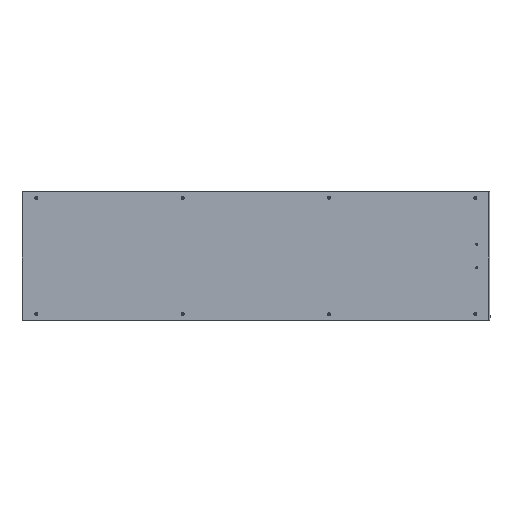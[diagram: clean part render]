
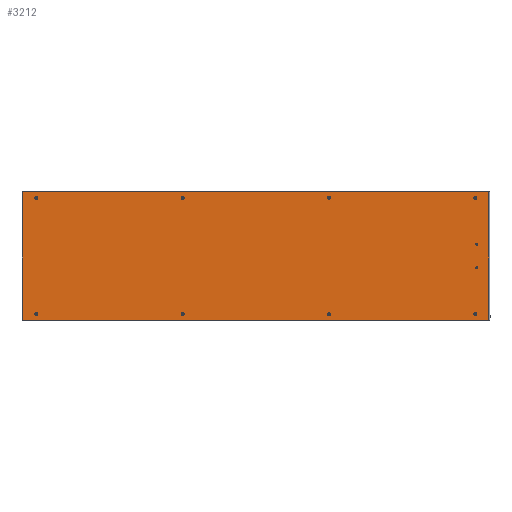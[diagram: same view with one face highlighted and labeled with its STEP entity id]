
A CAD part, top view. The second image highlights one B-rep face of the part: STEP entity #3212.
In plain terms, the highlighted planar face has unit normal (0, 0, 1).
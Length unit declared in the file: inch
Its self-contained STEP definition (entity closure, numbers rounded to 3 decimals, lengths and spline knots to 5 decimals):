
#16=CARTESIAN_POINT('',(36.865,9.75,0.36375));
#17=DIRECTION('',(0.,0.,1.));
#18=DIRECTION('',(1.,0.,0.));
#19=AXIS2_PLACEMENT_3D('',#16,#17,#18);
#25=CARTESIAN_POINT('',(36.865,9.75,0.36375));
#26=DIRECTION('',(0.,0.,1.));
#27=DIRECTION('',(-1.,0.,0.));
#28=AXIS2_PLACEMENT_3D('',#25,#26,#27);
#33=CARTESIAN_POINT('',(12.28833,9.75,0.36375));
#34=DIRECTION('',(0.,0.,1.));
#35=DIRECTION('',(1.,0.,0.));
#36=AXIS2_PLACEMENT_3D('',#33,#34,#35);
#41=CARTESIAN_POINT('',(12.28833,9.75,0.36375));
#42=DIRECTION('',(0.,0.,1.));
#43=DIRECTION('',(-1.,0.,0.));
#44=AXIS2_PLACEMENT_3D('',#41,#42,#43);
#49=CARTESIAN_POINT('',(-12.28833,9.75,0.36375));
#50=DIRECTION('',(0.,0.,1.));
#51=DIRECTION('',(1.,0.,0.));
#52=AXIS2_PLACEMENT_3D('',#49,#50,#51);
#57=CARTESIAN_POINT('',(-12.28833,9.75,0.36375));
#58=DIRECTION('',(0.,0.,1.));
#59=DIRECTION('',(-1.,0.,0.));
#60=AXIS2_PLACEMENT_3D('',#57,#58,#59);
#65=CARTESIAN_POINT('',(-36.865,9.75,0.36375));
#66=DIRECTION('',(0.,0.,1.));
#67=DIRECTION('',(1.,0.,0.));
#68=AXIS2_PLACEMENT_3D('',#65,#66,#67);
#73=CARTESIAN_POINT('',(-36.865,9.75,0.36375));
#74=DIRECTION('',(0.,0.,1.));
#75=DIRECTION('',(-1.,0.,0.));
#76=AXIS2_PLACEMENT_3D('',#73,#74,#75);
#81=CARTESIAN_POINT('',(-36.865,-9.75,0.36375));
#82=DIRECTION('',(0.,0.,1.));
#83=DIRECTION('',(1.,0.,0.));
#84=AXIS2_PLACEMENT_3D('',#81,#82,#83);
#89=CARTESIAN_POINT('',(-36.865,-9.75,0.36375));
#90=DIRECTION('',(0.,0.,1.));
#91=DIRECTION('',(-1.,0.,0.));
#92=AXIS2_PLACEMENT_3D('',#89,#90,#91);
#97=CARTESIAN_POINT('',(-12.28833,-9.75,0.36375));
#98=DIRECTION('',(0.,0.,1.));
#99=DIRECTION('',(1.,0.,0.));
#100=AXIS2_PLACEMENT_3D('',#97,#98,#99);
#105=CARTESIAN_POINT('',(-12.28833,-9.75,0.36375));
#106=DIRECTION('',(0.,0.,1.));
#107=DIRECTION('',(-1.,0.,0.));
#108=AXIS2_PLACEMENT_3D('',#105,#106,#107);
#113=CARTESIAN_POINT('',(12.28833,-9.75,0.36375));
#114=DIRECTION('',(0.,0.,1.));
#115=DIRECTION('',(1.,0.,0.));
#116=AXIS2_PLACEMENT_3D('',#113,#114,#115);
#121=CARTESIAN_POINT('',(12.28833,-9.75,0.36375));
#122=DIRECTION('',(0.,0.,1.));
#123=DIRECTION('',(-1.,0.,0.));
#124=AXIS2_PLACEMENT_3D('',#121,#122,#123);
#129=CARTESIAN_POINT('',(36.865,-9.75,0.36375));
#130=DIRECTION('',(0.,0.,1.));
#131=DIRECTION('',(1.,0.,0.));
#132=AXIS2_PLACEMENT_3D('',#129,#130,#131);
#137=CARTESIAN_POINT('',(36.865,-9.75,0.36375));
#138=DIRECTION('',(0.,0.,1.));
#139=DIRECTION('',(-1.,0.,0.));
#140=AXIS2_PLACEMENT_3D('',#137,#138,#139);
#145=CARTESIAN_POINT('',(37.115,2.,0.36375));
#146=DIRECTION('',(0.,0.,1.));
#147=DIRECTION('',(0.,-1.,0.));
#148=AXIS2_PLACEMENT_3D('',#145,#146,#147);
#153=CARTESIAN_POINT('',(37.115,2.,0.36375));
#154=DIRECTION('',(0.,0.,1.));
#155=DIRECTION('',(0.,1.,0.));
#156=AXIS2_PLACEMENT_3D('',#153,#154,#155);
#161=CARTESIAN_POINT('',(37.115,-2.,0.36375));
#162=DIRECTION('',(0.,0.,1.));
#163=DIRECTION('',(0.,-1.,0.));
#164=AXIS2_PLACEMENT_3D('',#161,#162,#163);
#169=CARTESIAN_POINT('',(37.115,-2.,0.36375));
#170=DIRECTION('',(0.,0.,1.));
#171=DIRECTION('',(0.,1.,0.));
#172=AXIS2_PLACEMENT_3D('',#169,#170,#171);
#201=DIRECTION('',(0.,1.,0.));
#202=VECTOR('',#201,21.526);
#203=CARTESIAN_POINT('',(39.128,-10.763,0.36375));
#204=LINE('',#203,#202);
#654=DIRECTION('',(-1.,0.,0.));
#655=VECTOR('',#654,78.256);
#656=CARTESIAN_POINT('',(39.128,10.763,0.36375));
#657=LINE('',#656,#655);
#740=DIRECTION('',(0.,-1.,0.));
#741=VECTOR('',#740,21.526);
#742=CARTESIAN_POINT('',(-39.128,10.763,0.36375));
#743=LINE('',#742,#741);
#874=DIRECTION('',(1.,0.,0.));
#875=VECTOR('',#874,78.256);
#876=CARTESIAN_POINT('',(-39.128,-10.763,0.36375));
#877=LINE('',#876,#875);
#2721=CARTESIAN_POINT('',(39.128,10.763,0.36375));
#2722=CARTESIAN_POINT('',(-39.128,10.763,0.36375));
#2723=VERTEX_POINT('',#2721);
#2724=VERTEX_POINT('',#2722);
#2725=CARTESIAN_POINT('',(-39.128,-10.763,0.36375));
#2726=CARTESIAN_POINT('',(39.128,-10.763,0.36375));
#2727=VERTEX_POINT('',#2725);
#2728=VERTEX_POINT('',#2726);
#2977=CARTESIAN_POINT('',(37.0055,9.75,0.36375));
#2978=CARTESIAN_POINT('',(36.7245,9.75,0.36375));
#2979=VERTEX_POINT('',#2977);
#2980=VERTEX_POINT('',#2978);
#2981=CARTESIAN_POINT('',(12.42883,9.75,0.36375));
#2982=CARTESIAN_POINT('',(12.14783,9.75,0.36375));
#2983=VERTEX_POINT('',#2981);
#2984=VERTEX_POINT('',#2982);
#2985=CARTESIAN_POINT('',(-12.14783,9.75,0.36375));
#2986=CARTESIAN_POINT('',(-12.42883,9.75,0.36375));
#2987=VERTEX_POINT('',#2985);
#2988=VERTEX_POINT('',#2986);
#2989=CARTESIAN_POINT('',(-36.7245,9.75,0.36375));
#2990=CARTESIAN_POINT('',(-37.0055,9.75,0.36375));
#2991=VERTEX_POINT('',#2989);
#2992=VERTEX_POINT('',#2990);
#2993=CARTESIAN_POINT('',(-36.7245,-9.75,0.36375));
#2994=CARTESIAN_POINT('',(-37.0055,-9.75,0.36375));
#2995=VERTEX_POINT('',#2993);
#2996=VERTEX_POINT('',#2994);
#2997=CARTESIAN_POINT('',(-12.14783,-9.75,0.36375));
#2998=CARTESIAN_POINT('',(-12.42883,-9.75,0.36375));
#2999=VERTEX_POINT('',#2997);
#3000=VERTEX_POINT('',#2998);
#3001=CARTESIAN_POINT('',(12.42883,-9.75,0.36375));
#3002=CARTESIAN_POINT('',(12.14783,-9.75,0.36375));
#3003=VERTEX_POINT('',#3001);
#3004=VERTEX_POINT('',#3002);
#3005=CARTESIAN_POINT('',(37.0055,-9.75,0.36375));
#3006=CARTESIAN_POINT('',(36.7245,-9.75,0.36375));
#3007=VERTEX_POINT('',#3005);
#3008=VERTEX_POINT('',#3006);
#3041=CARTESIAN_POINT('',(37.115,1.875,0.36375));
#3042=CARTESIAN_POINT('',(37.115,2.125,0.36375));
#3043=VERTEX_POINT('',#3041);
#3044=VERTEX_POINT('',#3042);
#3045=CARTESIAN_POINT('',(37.115,-2.125,0.36375));
#3046=CARTESIAN_POINT('',(37.115,-1.875,0.36375));
#3047=VERTEX_POINT('',#3045);
#3048=VERTEX_POINT('',#3046);
#3137=CARTESIAN_POINT('',(0.,0.,0.36375));
#3138=DIRECTION('',(0.,0.,1.));
#3139=DIRECTION('',(1.,0.,0.));
#3140=AXIS2_PLACEMENT_3D('',#3137,#3138,#3139);
#3141=PLANE('',#3140);
#3143=ORIENTED_EDGE('',*,*,#3142,.F.);
#3145=ORIENTED_EDGE('',*,*,#3144,.F.);
#3147=ORIENTED_EDGE('',*,*,#3146,.F.);
#3149=ORIENTED_EDGE('',*,*,#3148,.F.);
#3150=EDGE_LOOP('',(#3143,#3145,#3147,#3149));
#3151=FACE_OUTER_BOUND('',#3150,.F.);
#3153=ORIENTED_EDGE('',*,*,#3152,.T.);
#3155=ORIENTED_EDGE('',*,*,#3154,.T.);
#3156=EDGE_LOOP('',(#3153,#3155));
#3157=FACE_BOUND('',#3156,.F.);
#3159=ORIENTED_EDGE('',*,*,#3158,.T.);
#3161=ORIENTED_EDGE('',*,*,#3160,.T.);
#3162=EDGE_LOOP('',(#3159,#3161));
#3163=FACE_BOUND('',#3162,.F.);
#3165=ORIENTED_EDGE('',*,*,#3164,.T.);
#3167=ORIENTED_EDGE('',*,*,#3166,.T.);
#3168=EDGE_LOOP('',(#3165,#3167));
#3169=FACE_BOUND('',#3168,.F.);
#3171=ORIENTED_EDGE('',*,*,#3170,.T.);
#3173=ORIENTED_EDGE('',*,*,#3172,.T.);
#3174=EDGE_LOOP('',(#3171,#3173));
#3175=FACE_BOUND('',#3174,.F.);
#3177=ORIENTED_EDGE('',*,*,#3176,.T.);
#3179=ORIENTED_EDGE('',*,*,#3178,.T.);
#3180=EDGE_LOOP('',(#3177,#3179));
#3181=FACE_BOUND('',#3180,.F.);
#3183=ORIENTED_EDGE('',*,*,#3182,.T.);
#3185=ORIENTED_EDGE('',*,*,#3184,.T.);
#3186=EDGE_LOOP('',(#3183,#3185));
#3187=FACE_BOUND('',#3186,.F.);
#3189=ORIENTED_EDGE('',*,*,#3188,.T.);
#3191=ORIENTED_EDGE('',*,*,#3190,.T.);
#3192=EDGE_LOOP('',(#3189,#3191));
#3193=FACE_BOUND('',#3192,.F.);
#3195=ORIENTED_EDGE('',*,*,#3194,.T.);
#3197=ORIENTED_EDGE('',*,*,#3196,.T.);
#3198=EDGE_LOOP('',(#3195,#3197));
#3199=FACE_BOUND('',#3198,.F.);
#3201=ORIENTED_EDGE('',*,*,#3200,.T.);
#3203=ORIENTED_EDGE('',*,*,#3202,.T.);
#3204=EDGE_LOOP('',(#3201,#3203));
#3205=FACE_BOUND('',#3204,.F.);
#3207=ORIENTED_EDGE('',*,*,#3206,.T.);
#3209=ORIENTED_EDGE('',*,*,#3208,.T.);
#3210=EDGE_LOOP('',(#3207,#3209));
#3211=FACE_BOUND('',#3210,.F.);
#20=CIRCLE('',#19,0.1405);
#29=CIRCLE('',#28,0.1405);
#37=CIRCLE('',#36,0.1405);
#45=CIRCLE('',#44,0.1405);
#53=CIRCLE('',#52,0.1405);
#61=CIRCLE('',#60,0.1405);
#69=CIRCLE('',#68,0.1405);
#77=CIRCLE('',#76,0.1405);
#85=CIRCLE('',#84,0.1405);
#93=CIRCLE('',#92,0.1405);
#101=CIRCLE('',#100,0.1405);
#109=CIRCLE('',#108,0.1405);
#117=CIRCLE('',#116,0.1405);
#125=CIRCLE('',#124,0.1405);
#133=CIRCLE('',#132,0.1405);
#141=CIRCLE('',#140,0.1405);
#149=CIRCLE('',#148,0.125);
#157=CIRCLE('',#156,0.125);
#165=CIRCLE('',#164,0.125);
#173=CIRCLE('',#172,0.125);
#3142=EDGE_CURVE('',#2728,#2723,#204,.T.);
#3144=EDGE_CURVE('',#2727,#2728,#877,.T.);
#3146=EDGE_CURVE('',#2724,#2727,#743,.T.);
#3148=EDGE_CURVE('',#2723,#2724,#657,.T.);
#3152=EDGE_CURVE('',#2979,#2980,#20,.T.);
#3154=EDGE_CURVE('',#2980,#2979,#29,.T.);
#3158=EDGE_CURVE('',#2983,#2984,#37,.T.);
#3160=EDGE_CURVE('',#2984,#2983,#45,.T.);
#3164=EDGE_CURVE('',#2987,#2988,#53,.T.);
#3166=EDGE_CURVE('',#2988,#2987,#61,.T.);
#3170=EDGE_CURVE('',#2991,#2992,#69,.T.);
#3172=EDGE_CURVE('',#2992,#2991,#77,.T.);
#3176=EDGE_CURVE('',#2995,#2996,#85,.T.);
#3178=EDGE_CURVE('',#2996,#2995,#93,.T.);
#3182=EDGE_CURVE('',#2999,#3000,#101,.T.);
#3184=EDGE_CURVE('',#3000,#2999,#109,.T.);
#3188=EDGE_CURVE('',#3003,#3004,#117,.T.);
#3190=EDGE_CURVE('',#3004,#3003,#125,.T.);
#3194=EDGE_CURVE('',#3007,#3008,#133,.T.);
#3196=EDGE_CURVE('',#3008,#3007,#141,.T.);
#3200=EDGE_CURVE('',#3043,#3044,#149,.T.);
#3202=EDGE_CURVE('',#3044,#3043,#157,.T.);
#3206=EDGE_CURVE('',#3047,#3048,#165,.T.);
#3208=EDGE_CURVE('',#3048,#3047,#173,.T.);
#3212=ADVANCED_FACE('',(#3151,#3157,#3163,#3169,#3175,#3181,#3187,#3193,#3199,
#3205,#3211),#3141,.T.);
